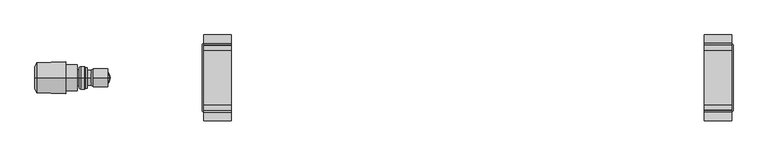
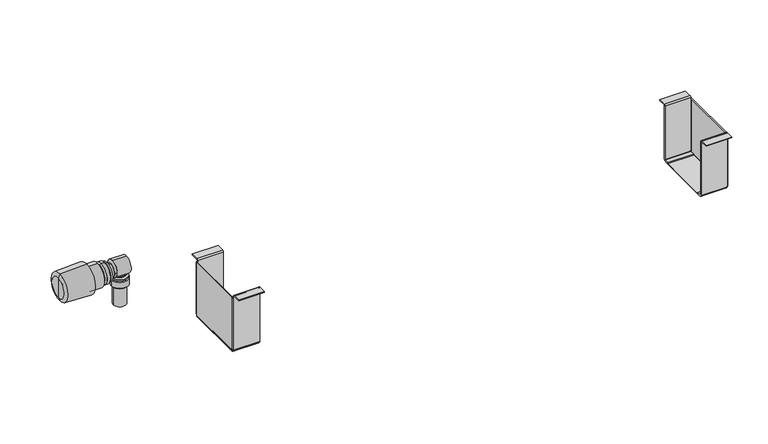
"""IFC4 building model written with IfcOpenShell, lengths in millimetres: proxy geometry, TECHNO_Конвектор напольный_Vita KPZ 135 : KPZ 135-130."""

from ifc_helpers import new_model, si_unit, point, frame, origin, place, context, project, spatial, polyline, circle_curve, ellipse_curve, trimmed, source, transform, mapped, element, save
from ifc_brep_helpers import plane_surface, cylinder_surface, revolved_surface, spline_surface, advanced_brep


def mechanical_equipment_428bca93(model_context):
    return source(origin(), model_context, "Body", "AdvancedBrep", [
        advanced_brep(
        [(409.7, -116.8, 1.5), (409.7, -114.5, 3.8), (409.7, -114.5, 4.9), (409.7, -116.0, 4.9), (409.7, -116.0, 3.8), (409.7, -116.8, 3.0), (409.7, -124.5, 3.0), (409.7, -124.5, 1.5), (409.7, -117.6, 1.5), (409.7, -114.5, 97.7), (409.7, -113.7, 98.5), (409.7, -101.0, 98.5), (409.7, -101.0, 100.0), (409.7, -113.7, 100.0), (409.7, -116.0, 97.7), (409.7, -116.0, 95.5), (409.7, -114.5, 95.5), (409.7, -220.5, 3.8), (409.7, -218.2, 1.5), (409.7, -217.4, 1.5), (409.7, -210.5, 1.5), (409.7, -210.5, 3.0), (409.7, -218.2, 3.0), (409.7, -219.0, 3.8), (409.7, -219.0, 4.9), (409.7, -220.5, 4.9), (409.7, -219.0, 97.7), (409.7, -221.3, 100.0), (409.7, -234.0, 100.0), (409.7, -234.0, 98.5), (409.7, -221.3, 98.5), (409.7, -220.5, 97.7), (409.7, -220.5, 95.5), (409.7, -219.0, 95.5), (367.0, -220.5, 97.7), (367.0, -221.3, 98.5), (367.0, -234.0, 98.5), (367.0, -234.0, 100.0), (367.0, -221.3, 100.0), (367.0, -219.0, 97.7), (367.0, -219.0, 3.8), (367.0, -218.2, 3.0), (367.0, -210.5, 3.0), (367.0, -210.5, 1.5), (367.0, -124.5, 1.5), (367.0, -124.5, 3.0), (367.0, -116.8, 3.0), (367.0, -116.0, 3.8), (367.0, -116.0, 97.7), (367.0, -113.7, 100.0), (367.0, -101.0, 100.0), (367.0, -101.0, 98.5), (367.0, -113.7, 98.5), (367.0, -114.5, 97.7), (367.0, -114.5, 3.8), (367.0, -116.8, 1.5), (367.0, -117.6, 1.5), (367.0, -117.6, 0.0), (367.0, -217.4, 0.0), (367.0, -217.4, 1.5), (367.0, -218.2, 1.5), (367.0, -220.5, 3.8), (410.5, -116.8, 95.5), (410.5, -218.2, 95.5), (412.0, -218.2, 95.5), (412.0, -116.8, 95.5), (412.0, -116.8, 4.9), (412.0, -117.6, 4.9), (410.5, -117.6, 4.9), (410.5, -116.8, 4.9), (410.5, -218.2, 4.9), (410.5, -217.4, 4.9), (412.0, -217.4, 4.9), (412.0, -218.2, 4.9), (410.5, -117.6, 2.3), (410.5, -217.4, 2.3), (412.0, -217.4, 2.3), (412.0, -117.6, 2.3), (409.7, -117.6, 0.0), (409.7, -217.4, 0.0)],
        [
            (0, 1, circle_curve(frame((409.7, -116.8, 3.8), z_axis=(1.0, 0.0, 0.0), x_axis=(0.0, -1.0, 0.0)), 2.3)),
            (1, 2),
            (2, 3),
            (3, 4),
            (4, 5, circle_curve(frame((409.7, -116.8, 3.8), z_axis=(-1.0, 0.0, 0.0), x_axis=(0.0, -1.0, 0.0)), 0.8)),
            (5, 6),
            (6, 7),
            (7, 8),
            (8, 0),
            (9, 10, circle_curve(frame((409.7, -113.7, 97.7), z_axis=(-1.0, 0.0, 0.0), x_axis=(0.0, -1.0, 0.0)), 0.8)),
            (10, 11),
            (11, 12),
            (12, 13),
            (13, 14, circle_curve(frame((409.7, -113.7, 97.7), z_axis=(1.0, 0.0, 0.0), x_axis=(0.0, -1.0, 0.0)), 2.3)),
            (14, 15),
            (15, 16),
            (16, 9),
            (17, 18, circle_curve(frame((409.7, -218.2, 3.8), z_axis=(1.0, 0.0, 0.0), x_axis=(0.0, -1.0, 0.0)), 2.3)),
            (18, 19),
            (19, 20),
            (20, 21),
            (21, 22),
            (22, 23, circle_curve(frame((409.7, -218.2, 3.8), z_axis=(-1.0, 0.0, 0.0), x_axis=(0.0, -1.0, 0.0)), 0.8)),
            (23, 24),
            (24, 25),
            (25, 17),
            (26, 27, circle_curve(frame((409.7, -221.3, 97.7), z_axis=(1.0, 0.0, 0.0), x_axis=(0.0, -1.0, 0.0)), 2.3)),
            (27, 28),
            (28, 29),
            (29, 30),
            (30, 31, circle_curve(frame((409.7, -221.3, 97.7), z_axis=(-1.0, 0.0, 0.0), x_axis=(0.0, -1.0, 0.0)), 0.8)),
            (31, 32),
            (32, 33),
            (33, 26),
            (34, 35, circle_curve(frame((367.0, -221.3, 97.7), z_axis=(1.0, 0.0, 0.0), x_axis=(0.0, -1.0, 0.0)), 0.8)),
            (35, 36),
            (36, 37),
            (37, 38),
            (38, 39, circle_curve(frame((367.0, -221.3, 97.7), z_axis=(-1.0, 0.0, 0.0), x_axis=(0.0, -1.0, 0.0)), 2.3)),
            (39, 40),
            (40, 41, circle_curve(frame((367.0, -218.2, 3.8), z_axis=(1.0, 0.0, 0.0), x_axis=(0.0, -1.0, 0.0)), 0.8)),
            (41, 42),
            (42, 43),
            (43, 44),
            (44, 45),
            (45, 46),
            (46, 47, circle_curve(frame((367.0, -116.8, 3.8), z_axis=(1.0, 0.0, 0.0), x_axis=(0.0, -1.0, 0.0)), 0.8)),
            (47, 48),
            (48, 49, circle_curve(frame((367.0, -113.7, 97.7), z_axis=(-1.0, 0.0, 0.0), x_axis=(0.0, -1.0, 0.0)), 2.3)),
            (49, 50),
            (50, 51),
            (51, 52),
            (52, 53, circle_curve(frame((367.0, -113.7, 97.7), z_axis=(1.0, 0.0, 0.0), x_axis=(0.0, -1.0, 0.0)), 0.8)),
            (53, 54),
            (54, 55, circle_curve(frame((367.0, -116.8, 3.8), z_axis=(-1.0, 0.0, 0.0), x_axis=(0.0, -1.0, 0.0)), 2.3)),
            (55, 56),
            (56, 57),
            (57, 58),
            (58, 59),
            (59, 60),
            (60, 61, circle_curve(frame((367.0, -218.2, 3.8), z_axis=(-1.0, 0.0, 0.0), x_axis=(0.0, -1.0, 0.0)), 2.3)),
            (61, 34),
            (30, 35),
            (34, 31),
            (29, 36),
            (28, 37),
            (27, 38),
            (26, 39),
            (33, 24),
            (23, 40),
            (22, 41),
            (5, 46),
            (45, 6),
            (4, 47),
            (3, 15),
            (14, 48),
            (13, 49),
            (12, 50),
            (11, 51),
            (10, 52),
            (9, 53),
            (16, 2),
            (1, 54),
            (0, 55),
            (8, 56),
            (17, 61),
            (60, 18),
            (25, 32),
            (21, 42),
            (20, 43),
            (59, 19),
            (44, 7),
            (15, 62, circle_curve(frame((409.7, -116.8, 95.5), z_axis=(0.0, 0.0, -1.0), x_axis=(-1.0, 0.0, 0.0)), 0.8)),
            (62, 63),
            (63, 33, circle_curve(frame((409.7, -218.2, 95.5), z_axis=(0.0, 0.0, -1.0), x_axis=(-1.0, 0.0, 0.0)), 0.8)),
            (32, 64, circle_curve(frame((409.7, -218.2, 95.5), z_axis=(0.0, 0.0, 1.0), x_axis=(-1.0, 0.0, 0.0)), 2.3)),
            (64, 65),
            (65, 16, circle_curve(frame((409.7, -116.8, 95.5), z_axis=(0.0, 0.0, 1.0), x_axis=(-1.0, 0.0, 0.0)), 2.3)),
            (2, 66, circle_curve(frame((409.7, -116.8, 4.9), z_axis=(0.0, 0.0, -1.0), x_axis=(-1.0, 0.0, 0.0)), 2.3)),
            (66, 67),
            (67, 68),
            (68, 69),
            (69, 3, circle_curve(frame((409.7, -116.8, 4.9), z_axis=(0.0, 0.0, 1.0), x_axis=(-1.0, 0.0, 0.0)), 0.8)),
            (24, 70, circle_curve(frame((409.7, -218.2, 4.9), z_axis=(0.0, 0.0, 1.0), x_axis=(-1.0, 0.0, 0.0)), 0.8)),
            (70, 71),
            (71, 72),
            (72, 73),
            (73, 25, circle_curve(frame((409.7, -218.2, 4.9), z_axis=(0.0, 0.0, -1.0), x_axis=(-1.0, 0.0, 0.0)), 2.3)),
            (69, 62),
            (68, 74),
            (74, 75),
            (75, 71),
            (70, 63),
            (64, 73),
            (72, 76),
            (76, 77),
            (77, 67),
            (66, 65),
            (8, 74, circle_curve(frame((409.7, -117.6, 2.3), z_axis=(0.0, -1.0, 0.0), x_axis=(-1.0, 0.0, 0.0)), 0.8)),
            (77, 78, circle_curve(frame((409.7, -117.6, 2.3), z_axis=(0.0, 1.0, 0.0), x_axis=(-1.0, 0.0, 0.0)), 2.3)),
            (78, 57),
            (58, 79),
            (79, 76, circle_curve(frame((409.7, -217.4, 2.3), z_axis=(0.0, -1.0, 0.0), x_axis=(-1.0, 0.0, 0.0)), 2.3)),
            (75, 19, circle_curve(frame((409.7, -217.4, 2.3), z_axis=(0.0, 1.0, 0.0), x_axis=(-1.0, 0.0, 0.0)), 0.8)),
            (20, 7),
            (79, 78),
        ],
        [
            plane_surface(frame((409.7, -222.1, 97.7), z_axis=(1.0, 0.0, 0.0), x_axis=(0.0, 0.0, 1.0))),
            plane_surface(frame((367.0, -222.1, 97.7), z_axis=(-1.0, 0.0, 0.0), x_axis=(0.0, 0.0, -1.0))),
            revolved_surface(polyline([(409.7, -222.10000000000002, 97.7), (367.0, -222.10000000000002, 97.7)]), (409.7, -221.3, 97.7), (1.0, 0.0, 0.0)),
            plane_surface(frame((367.0, -221.3, 98.5), z_axis=(0.0, 0.0, -1.0), x_axis=(1.0, 0.0, 0.0))),
            plane_surface(frame((367.0, -234.0, 98.5), z_axis=(0.0, -1.0, 0.0), x_axis=(1.0, 0.0, 0.0))),
            plane_surface(frame((367.0, -234.0, 100.0), z_axis=(0.0, 0.0, 1.0), x_axis=(1.0, 0.0, 0.0))),
            cylinder_surface(frame((409.7, -221.3, 97.7), z_axis=(-1.0, 0.0, 0.0), x_axis=(0.0, -1.0, 0.0)), 2.3),
            plane_surface(frame((367.0, -219.0, 97.7), z_axis=(0.0, 1.0, 0.0), x_axis=(1.0, 0.0, 0.0))),
            revolved_surface(polyline([(409.7, -219.0, 3.8), (367.0, -219.0, 3.8)]), (409.7, -218.2, 3.8), (1.0, 0.0, 0.0)),
            plane_surface(frame((367.0, -124.5, 3.0), z_axis=(0.0, 0.0, 1.0), x_axis=(1.0, 0.0, 0.0))),
            revolved_surface(polyline([(409.7, -117.6, 3.8), (367.0, -117.6, 3.8)]), (412.0, -116.8, 3.8), (1.0, 0.0, 0.0)),
            plane_surface(frame((367.0, -116.0, 3.8), z_axis=(0.0, -1.0, 0.0), x_axis=(1.0, 0.0, 0.0))),
            cylinder_surface(frame((412.0, -113.7, 97.7), z_axis=(-1.0, 0.0, 0.0), x_axis=(0.0, -1.0, 0.0)), 2.3),
            plane_surface(frame((367.0, -113.7, 100.0), z_axis=(0.0, 0.0, 1.0), x_axis=(1.0, 0.0, 0.0))),
            plane_surface(frame((367.0, -101.0, 100.0), z_axis=(0.0, 1.0, 0.0), x_axis=(1.0, 0.0, 0.0))),
            plane_surface(frame((367.0, -101.0, 98.5), z_axis=(0.0, 0.0, -1.0), x_axis=(1.0, 0.0, 0.0))),
            revolved_surface(polyline([(409.7, -114.5, 97.7), (367.0, -114.5, 97.7)]), (412.0, -113.7, 97.7), (1.0, 0.0, 0.0)),
            plane_surface(frame((367.0, -114.5, 97.7), z_axis=(0.0, 1.0, 0.0), x_axis=(1.0, 0.0, 0.0))),
            cylinder_surface(frame((412.0, -116.8, 3.8), z_axis=(-1.0, 0.0, 0.0), x_axis=(0.0, -1.0, 0.0)), 2.3),
            plane_surface(frame((367.0, -116.8, 1.5), z_axis=(0.0, 0.0, -1.0), x_axis=(1.0, 0.0, 0.0))),
            cylinder_surface(frame((409.7, -218.2, 3.8), z_axis=(-1.0, 0.0, 0.0), x_axis=(0.0, -1.0, 0.0)), 2.3),
            plane_surface(frame((367.0, -220.5, 3.8), z_axis=(0.0, -1.0, 0.0), x_axis=(1.0, 0.0, 0.0))),
            plane_surface(frame((367.0, -218.2, 3.0), z_axis=(0.0, 0.0, 1.0), x_axis=(1.0, 0.0, 0.0))),
            plane_surface(frame((367.0, -210.5, 3.0), z_axis=(0.0, 1.0, 0.0), x_axis=(1.0, 0.0, 0.0))),
            plane_surface(frame((367.0, -210.5, 1.5), z_axis=(0.0, 0.0, -1.0), x_axis=(1.0, 0.0, 0.0))),
            plane_surface(frame((367.0, -124.5, 1.5), z_axis=(0.0, -1.0, 0.0), x_axis=(1.0, 0.0, 0.0))),
            plane_surface(frame((409.7, -116.0, 95.5), z_axis=(0.0, 0.0, 1.0), x_axis=(0.0, -1.0, 0.0))),
            plane_surface(frame((409.7, -116.0, 4.9), z_axis=(0.0, 0.0, -1.0), x_axis=(0.0, 1.0, 0.0))),
            revolved_surface(polyline([(408.9, -116.8, 4.9), (408.9, -116.8, 95.5)]), (409.7, -116.8, 4.9), (0.0, 0.0, -1.0)),
            plane_surface(frame((410.5, -116.8, 95.5), z_axis=(-1.0, 0.0, 0.0), x_axis=(0.0, 0.0, -1.0))),
            plane_surface(frame((412.0, -117.6, 95.5), z_axis=(1.0, 0.0, 0.0), x_axis=(0.0, 0.0, -1.0))),
            cylinder_surface(frame((409.7, -116.8, 4.9), z_axis=(0.0, 0.0, 1.0), x_axis=(-1.0, 0.0, 0.0)), 2.3),
            cylinder_surface(frame((409.7, -218.2, 0.0), z_axis=(0.0, 0.0, 1.0), x_axis=(-1.0, 0.0, 0.0)), 2.3),
            revolved_surface(polyline([(408.9, -218.2, 4.9), (408.9, -218.2, 95.5)]), (409.7, -218.2, 0.0), (0.0, 0.0, -1.0)),
            plane_surface(frame((367.0, -117.6, 1.5), z_axis=(0.0, 1.0, 0.0), x_axis=(0.0, 0.0, 1.0))),
            plane_surface(frame((367.0, -217.4, 1.5), z_axis=(0.0, -1.0, 0.0), x_axis=(0.0, 0.0, -1.0))),
            plane_surface(frame((367.0, -117.6, 1.5), z_axis=(0.0, 0.0, 1.0), x_axis=(0.0, -1.0, 0.0))),
            revolved_surface(polyline([(408.9, -217.4, 2.3), (408.9, -117.6, 2.3)]), (409.7, -217.4, 2.3), (0.0, -1.0, 0.0)),
            cylinder_surface(frame((409.7, -217.4, 2.3), z_axis=(0.0, 1.0, 0.0), x_axis=(-1.0, 0.0, 0.0)), 2.3),
            plane_surface(frame((409.7, -117.6, 0.0), z_axis=(0.0, 0.0, -1.0), x_axis=(0.0, -1.0, 0.0))),
        ],
        [
            (0, [[1, 2, 3, 4, 5, 6, 7, 8, 9]]),
            (0, [[10, 11, 12, 13, 14, 15, 16, 17]]),
            (0, [[18, 19, 20, 21, 22, 23, 24, 25, 26]]),
            (0, [[27, 28, 29, 30, 31, 32, 33, 34]]),
            (1, [[35, 36, 37, 38, 39, 40, 41, 42, 43, 44, 45, 46, 47, 48, 49, 50, 51, 52, 53, 54, 55, 56, 57, 58, 59, 60, 61, 62]]),
            (2, [[-31, 63, -35, 64]]),
            (3, [[-30, 65, -36, -63]]),
            (4, [[-29, 66, -37, -65]]),
            (5, [[-28, 67, -38, -66]]),
            (6, [[-27, 68, -39, -67]]),
            (7, [[-40, -68, -34, 69, -24, 70]]),
            (8, [[-23, 71, -41, -70]]),
            (9, [[-6, 72, -46, 73]]),
            (10, [[-5, 74, -47, -72]]),
            (11, [[-48, -74, -4, 75, -15, 76]]),
            (12, [[-14, 77, -49, -76]]),
            (13, [[-13, 78, -50, -77]]),
            (14, [[-12, 79, -51, -78]]),
            (15, [[-11, 80, -52, -79]]),
            (16, [[-10, 81, -53, -80]]),
            (17, [[-54, -81, -17, 82, -2, 83]]),
            (18, [[-1, 84, -55, -83]]),
            (19, [[-84, -9, 85, -56]]),
            (20, [[-18, 86, -61, 87]]),
            (21, [[-62, -86, -26, 88, -32, -64]]),
            (22, [[-22, 89, -42, -71]]),
            (23, [[-21, 90, -43, -89]]),
            (24, [[-87, -60, 91, -19]]),
            (25, [[-7, -73, -45, 92]]),
            (26, [[93, 94, 95, -33, 96, 97, 98, -16]]),
            (27, [[99, 100, 101, 102, 103, -3]]),
            (27, [[104, 105, 106, 107, 108, -25]]),
            (28, [[-93, -75, -103, 109]]),
            (29, [[-94, -109, -102, 110, 111, 112, -105, 113]]),
            (30, [[-97, 114, -107, 115, 116, 117, -100, 118]]),
            (31, [[-98, -118, -99, -82]]),
            (32, [[-96, -88, -108, -114]]),
            (33, [[-95, -113, -104, -69]]),
            (34, [[-57, -85, 119, -110, -101, -117, 120, 121]]),
            (35, [[122, 123, -115, -106, -112, 124, -91, -59]]),
            (36, [[125, -92, -44, -90]]),
            (37, [[-119, -8, -125, -20, -124, -111]]),
            (38, [[-120, -116, -123, 126]]),
            (39, [[-121, -126, -122, -58]]),
        ],
    ),
        advanced_brep(
        [(-409.7, -218.2, 1.5), (-409.7, -220.5, 3.8), (-409.7, -220.5, 4.9), (-409.7, -219.0, 4.9), (-409.7, -219.0, 3.8), (-409.7, -218.2, 3.0), (-409.7, -210.5, 3.0), (-409.7, -210.5, 1.5), (-409.7, -217.4, 1.5), (-409.7, -220.5, 97.7), (-409.7, -221.3, 98.5), (-409.7, -234.0, 98.5), (-409.7, -234.0, 100.0), (-409.7, -221.3, 100.0), (-409.7, -219.0, 97.7), (-409.7, -219.0, 95.5), (-409.7, -220.5, 95.5), (-409.7, -114.5, 3.8), (-409.7, -116.8, 1.5), (-409.7, -117.6, 1.5), (-409.7, -124.5, 1.5), (-409.7, -124.5, 3.0), (-409.7, -116.8, 3.0), (-409.7, -116.0, 3.8), (-409.7, -116.0, 4.9), (-409.7, -114.5, 4.9), (-409.7, -116.0, 97.7), (-409.7, -113.7, 100.0), (-409.7, -101.0, 100.0), (-409.7, -101.0, 98.5), (-409.7, -113.7, 98.5), (-409.7, -114.5, 97.7), (-409.7, -114.5, 95.5), (-409.7, -116.0, 95.5), (-367.0, -114.5, 97.7), (-367.0, -113.7, 98.5), (-367.0, -101.0, 98.5), (-367.0, -101.0, 100.0), (-367.0, -113.7, 100.0), (-367.0, -116.0, 97.7), (-367.0, -116.0, 3.8), (-367.0, -116.8, 3.0), (-367.0, -124.5, 3.0), (-367.0, -124.5, 1.5), (-367.0, -210.5, 1.5), (-367.0, -210.5, 3.0), (-367.0, -218.2, 3.0), (-367.0, -219.0, 3.8), (-367.0, -219.0, 97.7), (-367.0, -221.3, 100.0), (-367.0, -234.0, 100.0), (-367.0, -234.0, 98.5), (-367.0, -221.3, 98.5), (-367.0, -220.5, 97.7), (-367.0, -220.5, 3.8), (-367.0, -218.2, 1.5), (-367.0, -217.4, 1.5), (-367.0, -217.4, 0.0), (-367.0, -117.6, 0.0), (-367.0, -117.6, 1.5), (-367.0, -116.8, 1.5), (-367.0, -114.5, 3.8), (-410.5, -218.2, 95.5), (-410.5, -116.8, 95.5), (-412.0, -116.8, 95.5), (-412.0, -218.2, 95.5), (-412.0, -218.2, 4.9), (-412.0, -217.4, 4.9), (-410.5, -217.4, 4.9), (-410.5, -218.2, 4.9), (-410.5, -116.8, 4.9), (-410.5, -117.6, 4.9), (-412.0, -117.6, 4.9), (-412.0, -116.8, 4.9), (-410.5, -217.4, 2.3), (-410.5, -117.6, 2.3), (-412.0, -117.6, 2.3), (-412.0, -217.4, 2.3), (-409.7, -217.4, 0.0), (-409.7, -117.6, 0.0)],
        [
            (0, 1, circle_curve(frame((-409.7, -218.2, 3.8), z_axis=(-1.0, 0.0, 0.0), x_axis=(0.0, 1.0, 0.0)), 2.3)),
            (1, 2),
            (2, 3),
            (3, 4),
            (4, 5, circle_curve(frame((-409.7, -218.2, 3.8), z_axis=(1.0, 0.0, 0.0), x_axis=(0.0, 1.0, 0.0)), 0.8)),
            (5, 6),
            (6, 7),
            (7, 8),
            (8, 0),
            (9, 10, circle_curve(frame((-409.7, -221.3, 97.7), z_axis=(1.0, 0.0, 0.0), x_axis=(0.0, 1.0, 0.0)), 0.8)),
            (10, 11),
            (11, 12),
            (12, 13),
            (13, 14, circle_curve(frame((-409.7, -221.3, 97.7), z_axis=(-1.0, 0.0, 0.0), x_axis=(0.0, 1.0, 0.0)), 2.3)),
            (14, 15),
            (15, 16),
            (16, 9),
            (17, 18, circle_curve(frame((-409.7, -116.8, 3.8), z_axis=(-1.0, 0.0, 0.0), x_axis=(0.0, 1.0, 0.0)), 2.3)),
            (18, 19),
            (19, 20),
            (20, 21),
            (21, 22),
            (22, 23, circle_curve(frame((-409.7, -116.8, 3.8), z_axis=(1.0, 0.0, 0.0), x_axis=(0.0, 1.0, 0.0)), 0.8)),
            (23, 24),
            (24, 25),
            (25, 17),
            (26, 27, circle_curve(frame((-409.7, -113.7, 97.7), z_axis=(-1.0, 0.0, 0.0), x_axis=(0.0, 1.0, 0.0)), 2.3)),
            (27, 28),
            (28, 29),
            (29, 30),
            (30, 31, circle_curve(frame((-409.7, -113.7, 97.7), z_axis=(1.0, 0.0, 0.0), x_axis=(0.0, 1.0, 0.0)), 0.8)),
            (31, 32),
            (32, 33),
            (33, 26),
            (34, 35, circle_curve(frame((-367.0, -113.7, 97.7), z_axis=(-1.0, 0.0, 0.0), x_axis=(0.0, 1.0, 0.0)), 0.8)),
            (35, 36),
            (36, 37),
            (37, 38),
            (38, 39, circle_curve(frame((-367.0, -113.7, 97.7), z_axis=(1.0, 0.0, 0.0), x_axis=(0.0, 1.0, 0.0)), 2.3)),
            (39, 40),
            (40, 41, circle_curve(frame((-367.0, -116.8, 3.8), z_axis=(-1.0, 0.0, 0.0), x_axis=(0.0, 1.0, 0.0)), 0.8)),
            (41, 42),
            (42, 43),
            (43, 44),
            (44, 45),
            (45, 46),
            (46, 47, circle_curve(frame((-367.0, -218.2, 3.8), z_axis=(-1.0, 0.0, 0.0), x_axis=(0.0, 1.0, 0.0)), 0.8)),
            (47, 48),
            (48, 49, circle_curve(frame((-367.0, -221.3, 97.7), z_axis=(1.0, 0.0, 0.0), x_axis=(0.0, 1.0, 0.0)), 2.3)),
            (49, 50),
            (50, 51),
            (51, 52),
            (52, 53, circle_curve(frame((-367.0, -221.3, 97.7), z_axis=(-1.0, 0.0, 0.0), x_axis=(0.0, 1.0, 0.0)), 0.8)),
            (53, 54),
            (54, 55, circle_curve(frame((-367.0, -218.2, 3.8), z_axis=(1.0, 0.0, 0.0), x_axis=(0.0, 1.0, 0.0)), 2.3)),
            (55, 56),
            (56, 57),
            (57, 58),
            (58, 59),
            (59, 60),
            (60, 61, circle_curve(frame((-367.0, -116.8, 3.8), z_axis=(1.0, 0.0, 0.0), x_axis=(0.0, 1.0, 0.0)), 2.3)),
            (61, 34),
            (30, 35),
            (34, 31),
            (29, 36),
            (28, 37),
            (27, 38),
            (26, 39),
            (33, 24),
            (23, 40),
            (22, 41),
            (5, 46),
            (45, 6),
            (4, 47),
            (3, 15),
            (14, 48),
            (13, 49),
            (12, 50),
            (11, 51),
            (10, 52),
            (9, 53),
            (16, 2),
            (1, 54),
            (0, 55),
            (8, 56),
            (17, 61),
            (60, 18),
            (25, 32),
            (21, 42),
            (20, 43),
            (59, 19),
            (44, 7),
            (15, 62, circle_curve(frame((-409.7, -218.2, 95.5), z_axis=(0.0, 0.0, -1.0), x_axis=(1.0, 0.0, 0.0)), 0.8)),
            (62, 63),
            (63, 33, circle_curve(frame((-409.7, -116.8, 95.5), z_axis=(0.0, 0.0, -1.0), x_axis=(1.0, 0.0, 0.0)), 0.8)),
            (32, 64, circle_curve(frame((-409.7, -116.8, 95.5), z_axis=(0.0, 0.0, 1.0), x_axis=(1.0, 0.0, 0.0)), 2.3)),
            (64, 65),
            (65, 16, circle_curve(frame((-409.7, -218.2, 95.5), z_axis=(0.0, 0.0, 1.0), x_axis=(1.0, 0.0, 0.0)), 2.3)),
            (2, 66, circle_curve(frame((-409.7, -218.2, 4.9), z_axis=(0.0, 0.0, -1.0), x_axis=(1.0, 0.0, 0.0)), 2.3)),
            (66, 67),
            (67, 68),
            (68, 69),
            (69, 3, circle_curve(frame((-409.7, -218.2, 4.9), z_axis=(0.0, 0.0, 1.0), x_axis=(1.0, 0.0, 0.0)), 0.8)),
            (24, 70, circle_curve(frame((-409.7, -116.8, 4.9), z_axis=(0.0, 0.0, 1.0), x_axis=(1.0, 0.0, 0.0)), 0.8)),
            (70, 71),
            (71, 72),
            (72, 73),
            (73, 25, circle_curve(frame((-409.7, -116.8, 4.9), z_axis=(0.0, 0.0, -1.0), x_axis=(1.0, 0.0, 0.0)), 2.3)),
            (69, 62),
            (68, 74),
            (74, 75),
            (75, 71),
            (70, 63),
            (64, 73),
            (72, 76),
            (76, 77),
            (77, 67),
            (66, 65),
            (8, 74, circle_curve(frame((-409.7, -217.4, 2.3), z_axis=(0.0, 1.0, 0.0), x_axis=(1.0, 0.0, 0.0)), 0.8)),
            (77, 78, circle_curve(frame((-409.7, -217.4, 2.3), z_axis=(0.0, -1.0, 0.0), x_axis=(1.0, 0.0, 0.0)), 2.3)),
            (78, 57),
            (58, 79),
            (79, 76, circle_curve(frame((-409.7, -117.6, 2.3), z_axis=(0.0, 1.0, 0.0), x_axis=(1.0, 0.0, 0.0)), 2.3)),
            (75, 19, circle_curve(frame((-409.7, -117.6, 2.3), z_axis=(0.0, -1.0, 0.0), x_axis=(1.0, 0.0, 0.0)), 0.8)),
            (20, 7),
            (79, 78),
        ],
        [
            plane_surface(frame((-409.7, -112.9, 97.7), z_axis=(-1.0, 0.0, 0.0), x_axis=(0.0, 0.0, 1.0))),
            plane_surface(frame((-367.0, -112.9, 97.7), z_axis=(1.0, 0.0, 0.0), x_axis=(0.0, 0.0, -1.0))),
            revolved_surface(polyline([(-409.7, -112.9, 97.7), (-367.0, -112.9, 97.7)]), (-409.7, -113.7, 97.7), (-1.0, 0.0, 0.0)),
            plane_surface(frame((-367.0, -113.7, 98.5), z_axis=(0.0, 0.0, -1.0), x_axis=(-1.0, 0.0, 0.0))),
            plane_surface(frame((-367.0, -101.0, 98.5), z_axis=(0.0, 1.0, 0.0), x_axis=(-1.0, 0.0, 0.0))),
            plane_surface(frame((-367.0, -101.0, 100.0), z_axis=(0.0, 0.0, 1.0), x_axis=(-1.0, 0.0, 0.0))),
            cylinder_surface(frame((-409.7, -113.7, 97.7), z_axis=(1.0, 0.0, 0.0), x_axis=(0.0, 1.0, 0.0)), 2.3),
            plane_surface(frame((-367.0, -116.0, 97.7), z_axis=(0.0, -1.0, 0.0), x_axis=(-1.0, 0.0, 0.0))),
            revolved_surface(polyline([(-409.7, -116.0, 3.8), (-367.0, -116.0, 3.8)]), (-409.7, -116.8, 3.8), (-1.0, 0.0, 0.0)),
            plane_surface(frame((-367.0, -210.5, 3.0), z_axis=(0.0, 0.0, 1.0), x_axis=(-1.0, 0.0, 0.0))),
            revolved_surface(polyline([(-409.7, -217.39999999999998, 3.8), (-367.0, -217.39999999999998, 3.8)]), (-412.0, -218.2, 3.8), (-1.0, 0.0, 0.0)),
            plane_surface(frame((-367.0, -219.0, 3.8), z_axis=(0.0, 1.0, 0.0), x_axis=(-1.0, 0.0, 0.0))),
            cylinder_surface(frame((-412.0, -221.3, 97.7), z_axis=(1.0, 0.0, 0.0), x_axis=(0.0, 1.0, 0.0)), 2.3),
            plane_surface(frame((-367.0, -221.3, 100.0), z_axis=(0.0, 0.0, 1.0), x_axis=(-1.0, 0.0, 0.0))),
            plane_surface(frame((-367.0, -234.0, 100.0), z_axis=(0.0, -1.0, 0.0), x_axis=(-1.0, 0.0, 0.0))),
            plane_surface(frame((-367.0, -234.0, 98.5), z_axis=(0.0, 0.0, -1.0), x_axis=(-1.0, 0.0, 0.0))),
            revolved_surface(polyline([(-409.7, -220.5, 97.7), (-367.0, -220.5, 97.7)]), (-412.0, -221.3, 97.7), (-1.0, 0.0, 0.0)),
            plane_surface(frame((-367.0, -220.5, 97.7), z_axis=(0.0, -1.0, 0.0), x_axis=(-1.0, 0.0, 0.0))),
            cylinder_surface(frame((-412.0, -218.2, 3.8), z_axis=(1.0, 0.0, 0.0), x_axis=(0.0, 1.0, 0.0)), 2.3),
            plane_surface(frame((-367.0, -218.2, 1.5), z_axis=(0.0, 0.0, -1.0), x_axis=(-1.0, 0.0, 0.0))),
            cylinder_surface(frame((-409.7, -116.8, 3.8), z_axis=(1.0, 0.0, 0.0), x_axis=(0.0, 1.0, 0.0)), 2.3),
            plane_surface(frame((-367.0, -114.5, 3.8), z_axis=(0.0, 1.0, 0.0), x_axis=(-1.0, 0.0, 0.0))),
            plane_surface(frame((-367.0, -116.8, 3.0), z_axis=(0.0, 0.0, 1.0), x_axis=(-1.0, 0.0, 0.0))),
            plane_surface(frame((-367.0, -124.5, 3.0), z_axis=(0.0, -1.0, 0.0), x_axis=(-1.0, 0.0, 0.0))),
            plane_surface(frame((-367.0, -124.5, 1.5), z_axis=(0.0, 0.0, -1.0), x_axis=(-1.0, 0.0, 0.0))),
            plane_surface(frame((-367.0, -210.5, 1.5), z_axis=(0.0, 1.0, 0.0), x_axis=(-1.0, 0.0, 0.0))),
            plane_surface(frame((-409.7, -219.0, 95.5), z_axis=(0.0, 0.0, 1.0), x_axis=(0.0, 1.0, 0.0))),
            plane_surface(frame((-409.7, -219.0, 4.9), z_axis=(0.0, 0.0, -1.0), x_axis=(0.0, -1.0, 0.0))),
            revolved_surface(polyline([(-408.9, -218.2, 4.9), (-408.9, -218.2, 95.5)]), (-409.7, -218.2, 4.9), (0.0, 0.0, -1.0)),
            plane_surface(frame((-410.5, -218.2, 95.5), z_axis=(1.0, 0.0, 0.0), x_axis=(0.0, 0.0, -1.0))),
            plane_surface(frame((-412.0, -217.4, 95.5), z_axis=(-1.0, 0.0, 0.0), x_axis=(0.0, 0.0, -1.0))),
            cylinder_surface(frame((-409.7, -218.2, 4.9), z_axis=(0.0, 0.0, 1.0), x_axis=(1.0, 0.0, 0.0)), 2.3),
            cylinder_surface(frame((-409.7, -116.8, 0.0), z_axis=(0.0, 0.0, 1.0), x_axis=(1.0, 0.0, 0.0)), 2.3),
            revolved_surface(polyline([(-408.9, -116.8, 4.9), (-408.9, -116.8, 95.5)]), (-409.7, -116.8, 0.0), (0.0, 0.0, -1.0)),
            plane_surface(frame((-367.0, -217.4, 1.5), z_axis=(0.0, -1.0, 0.0), x_axis=(0.0, 0.0, 1.0))),
            plane_surface(frame((-367.0, -117.6, 1.5), z_axis=(0.0, 1.0, 0.0), x_axis=(0.0, 0.0, -1.0))),
            plane_surface(frame((-367.0, -217.4, 1.5), z_axis=(0.0, 0.0, 1.0), x_axis=(0.0, 1.0, 0.0))),
            revolved_surface(polyline([(-408.9, -117.6, 2.3), (-408.9, -217.4, 2.3)]), (-409.7, -117.6, 2.3), (0.0, 1.0, 0.0)),
            cylinder_surface(frame((-409.7, -117.6, 2.3), z_axis=(0.0, -1.0, 0.0), x_axis=(1.0, 0.0, 0.0)), 2.3),
            plane_surface(frame((-409.7, -217.4, 0.0), z_axis=(0.0, 0.0, -1.0), x_axis=(0.0, 1.0, 0.0))),
        ],
        [
            (0, [[1, 2, 3, 4, 5, 6, 7, 8, 9]]),
            (0, [[10, 11, 12, 13, 14, 15, 16, 17]]),
            (0, [[18, 19, 20, 21, 22, 23, 24, 25, 26]]),
            (0, [[27, 28, 29, 30, 31, 32, 33, 34]]),
            (1, [[35, 36, 37, 38, 39, 40, 41, 42, 43, 44, 45, 46, 47, 48, 49, 50, 51, 52, 53, 54, 55, 56, 57, 58, 59, 60, 61, 62]]),
            (2, [[-31, 63, -35, 64]]),
            (3, [[-30, 65, -36, -63]]),
            (4, [[-29, 66, -37, -65]]),
            (5, [[-28, 67, -38, -66]]),
            (6, [[-27, 68, -39, -67]]),
            (7, [[-40, -68, -34, 69, -24, 70]]),
            (8, [[-23, 71, -41, -70]]),
            (9, [[-6, 72, -46, 73]]),
            (10, [[-5, 74, -47, -72]]),
            (11, [[-48, -74, -4, 75, -15, 76]]),
            (12, [[-14, 77, -49, -76]]),
            (13, [[-13, 78, -50, -77]]),
            (14, [[-12, 79, -51, -78]]),
            (15, [[-11, 80, -52, -79]]),
            (16, [[-10, 81, -53, -80]]),
            (17, [[-54, -81, -17, 82, -2, 83]]),
            (18, [[-1, 84, -55, -83]]),
            (19, [[-84, -9, 85, -56]]),
            (20, [[-18, 86, -61, 87]]),
            (21, [[-62, -86, -26, 88, -32, -64]]),
            (22, [[-22, 89, -42, -71]]),
            (23, [[-21, 90, -43, -89]]),
            (24, [[-87, -60, 91, -19]]),
            (25, [[-7, -73, -45, 92]]),
            (26, [[93, 94, 95, -33, 96, 97, 98, -16]]),
            (27, [[99, 100, 101, 102, 103, -3]]),
            (27, [[104, 105, 106, 107, 108, -25]]),
            (28, [[-93, -75, -103, 109]]),
            (29, [[-94, -109, -102, 110, 111, 112, -105, 113]]),
            (30, [[-97, 114, -107, 115, 116, 117, -100, 118]]),
            (31, [[-98, -118, -99, -82]]),
            (32, [[-96, -88, -108, -114]]),
            (33, [[-95, -113, -104, -69]]),
            (34, [[-57, -85, 119, -110, -101, -117, 120, 121]]),
            (35, [[122, 123, -115, -106, -112, 124, -91, -59]]),
            (36, [[125, -92, -44, -90]]),
            (37, [[-119, -8, -125, -20, -124, -111]]),
            (38, [[-120, -116, -123, 126]]),
            (39, [[-121, -126, -122, -58]]),
        ],
    ),
        advanced_brep(
        [(-558.0, -167.5, 161.5), (-558.0, -167.5, 189.5), (-558.0, -167.5, 175.5), (-580.9, -167.5, 161.5), (-580.9, -167.5, 189.5), (-580.9, -167.5, 175.5)],
        [
            (0, 1, circle_curve(frame((-558.0, -167.5, 175.5), z_axis=(1.0, 0.0, 0.0), x_axis=(0.0, 0.0, 1.0)), 14.0)),
            (1, 2),
            (2, 0),
            (1, 0, circle_curve(frame((-558.0, -167.5, 175.5), z_axis=(1.0, 0.0, 0.0), x_axis=(0.0, 0.0, 1.0)), 14.0)),
            (3, 4, circle_curve(frame((-580.9, -167.5, 175.5), z_axis=(1.0, 0.0, 0.0), x_axis=(0.0, 0.0, 1.0)), 14.0)),
            (4, 1),
            (0, 3),
            (4, 3, circle_curve(frame((-580.9, -167.5, 175.5), z_axis=(1.0, 0.0, 0.0), x_axis=(0.0, 0.0, 1.0)), 14.0)),
            (5, 4),
            (3, 5),
        ],
        [
            plane_surface(frame((-558.0, -167.5, 175.5), z_axis=(1.0, 0.0, 0.0), x_axis=(0.0, 0.0, 1.0))),
            cylinder_surface(frame((-580.9, -167.5, 175.5), z_axis=(-1.0, 0.0, 0.0), x_axis=(0.0, 0.0, 1.0)), 14.0),
            plane_surface(frame((-580.9, -167.5, 175.5), z_axis=(-1.0, 0.0, 0.0), x_axis=(0.0, 0.0, 1.0))),
        ],
        [
            (0, [[1, 2, 3]]),
            (0, [[4, -3, -2]]),
            (1, [[5, 6, -1, 7]]),
            (1, [[8, -7, -4, -6]]),
            (2, [[9, -5, 10]]),
            (2, [[-10, -8, -9]]),
        ],
    ),
        advanced_brep(
        [(-580.9, -181.5, 175.5), (-580.9, -153.5, 175.5), (-583.7867511, -179.0, 173.0), (-583.7867511, -156.0, 173.0)],
        [
            (0, 1, circle_curve(frame((-580.9, -167.5, 175.5), z_axis=(1.0, 0.0, 0.0), x_axis=(0.0, 1.0, 0.0)), 14.0)),
            (1, 0, circle_curve(frame((-580.9, -167.5, 175.5), z_axis=(1.0, 0.0, 0.0), x_axis=(0.0, 1.0, 0.0)), 14.0)),
            (2, 3, circle_curve(frame((-583.7867511, -167.5, 173.0), z_axis=(-1.0, 0.0, 0.0), x_axis=(0.0, 1.0, 0.0)), 11.5)),
            (3, 2, circle_curve(frame((-583.7867511, -167.5, 173.0), z_axis=(-1.0, 0.0, 0.0), x_axis=(0.0, 1.0, 0.0)), 11.5)),
            (3, 1),
            (0, 2),
        ],
        [
            plane_surface(frame((-580.9, -167.5, 175.5), z_axis=(1.0, 0.0, 0.0), x_axis=(0.0, 0.0, -1.0))),
            plane_surface(frame((-583.7867511, -167.5, 173.0), z_axis=(-1.0, 0.0, 0.0), x_axis=(0.0, 0.0, -1.0))),
            spline_surface(2, 1, [[(-583.7867511, -179.0, 173.0), (-580.9, -181.5, 175.5)], [(-583.7867511, -179.0, 161.5), (-580.9, -181.5, 161.5)], [(-583.7867511, -167.5, 161.5), (-580.9, -167.5, 161.5)], [(-583.7867511, -156.0, 161.5), (-580.9, -153.5, 161.5)], [(-583.7867511, -156.0, 173.0), (-580.9, -153.5, 175.5)]], [3, 2, 3], [2, 2], [0.0, 1.0, 2.0], [0.0, 1.0], weights=[[1.0, 1.0], [0.7071067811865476, 0.7071067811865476], [1.0, 1.0], [0.7071067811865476, 0.7071067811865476], [1.0, 1.0]]),
            spline_surface(2, 1, [[(-583.7867511, -156.0, 173.0), (-580.9, -153.5, 175.5)], [(-583.7867511, -156.0, 184.5), (-580.9, -153.5, 189.5)], [(-583.7867511, -167.5, 184.5), (-580.9, -167.5, 189.5)], [(-583.7867511, -179.0, 184.5), (-580.9, -181.5, 189.5)], [(-583.7867511, -179.0, 173.0), (-580.9, -181.5, 175.5)]], [3, 2, 3], [2, 2], [0.0, 1.0, 2.0], [0.0, 1.0], weights=[[1.0, 1.0], [0.7071067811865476, 0.7071067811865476], [1.0, 1.0], [0.7071067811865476, 0.7071067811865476], [1.0, 1.0]]),
        ],
        [
            (0, [[1, 2]]),
            (1, [[3, 4]]),
            (2, [[-4, 5, -1, 6]]),
            (3, [[-3, -6, -2, -5]]),
        ],
    ),
        advanced_brep(
        [(-579.5, -167.5, 144.3), (-558.5, -167.5, 144.3), (-558.5, -167.5, 110.9), (-579.5, -167.5, 110.9), (-582.0, -167.5, 144.3), (-556.0, -167.5, 144.3), (-583.25, -167.5, 145.55), (-554.75, -167.5, 145.55), (-583.25, -167.5, 155.85), (-554.75, -167.5, 155.85), (-582.0, -167.5, 157.1), (-556.0, -167.5, 157.1), (-582.0, -167.5, 159.5), (-556.0, -167.5, 159.5), (-579.0, -167.5, 161.3), (-559.0, -167.5, 161.3), (-579.0, -167.5, 162.5), (-559.0, -167.5, 162.5), (-578.0, -167.5, 162.5), (-560.0, -167.5, 162.5), (-578.0, -167.5, 166.5), (-560.0, -167.5, 166.5), (-569.0, -167.5, 166.5), (-569.0, -167.5, 110.9)],
        [
            (0, 1, circle_curve(frame((-569.0, -167.5, 144.3), z_axis=(0.0, 0.0, -1.0), x_axis=(1.0, 0.0, 0.0)), 10.5)),
            (1, 2),
            (2, 3, circle_curve(frame((-569.0, -167.5, 110.9), z_axis=(0.0, 0.0, 1.0), x_axis=(1.0, 0.0, 0.0)), 10.5)),
            (3, 0),
            (1, 0, circle_curve(frame((-569.0, -167.5, 144.3), z_axis=(0.0, 0.0, -1.0), x_axis=(1.0, 0.0, 0.0)), 10.5)),
            (3, 2, circle_curve(frame((-569.0, -167.5, 110.9), z_axis=(0.0, 0.0, 1.0), x_axis=(1.0, 0.0, 0.0)), 10.5)),
            (4, 5, circle_curve(frame((-569.0, -167.5, 144.3), z_axis=(0.0, 0.0, -1.0), x_axis=(1.0, 0.0, 0.0)), 13.0)),
            (5, 1),
            (0, 4),
            (5, 4, circle_curve(frame((-569.0, -167.5, 144.3), z_axis=(0.0, 0.0, -1.0), x_axis=(1.0, 0.0, 0.0)), 13.0)),
            (6, 7, circle_curve(frame((-569.0, -167.5, 145.55), z_axis=(0.0, 0.0, -1.0), x_axis=(1.0, 0.0, 0.0)), 14.25)),
            (7, 5),
            (4, 6),
            (7, 6, circle_curve(frame((-569.0, -167.5, 145.55), z_axis=(0.0, 0.0, -1.0), x_axis=(1.0, 0.0, 0.0)), 14.25)),
            (8, 9, circle_curve(frame((-569.0, -167.5, 155.85), z_axis=(0.0, 0.0, -1.0), x_axis=(1.0, 0.0, 0.0)), 14.25)),
            (9, 7),
            (6, 8),
            (9, 8, circle_curve(frame((-569.0, -167.5, 155.85), z_axis=(0.0, 0.0, -1.0), x_axis=(1.0, 0.0, 0.0)), 14.25)),
            (10, 11, circle_curve(frame((-569.0, -167.5, 157.1), z_axis=(0.0, 0.0, -1.0), x_axis=(1.0, 0.0, 0.0)), 13.0)),
            (11, 9),
            (8, 10),
            (11, 10, circle_curve(frame((-569.0, -167.5, 157.1), z_axis=(0.0, 0.0, -1.0), x_axis=(1.0, 0.0, 0.0)), 13.0)),
            (12, 13, circle_curve(frame((-569.0, -167.5, 159.5), z_axis=(0.0, 0.0, -1.0), x_axis=(1.0, 0.0, 0.0)), 13.0)),
            (13, 11),
            (10, 12),
            (13, 12, circle_curve(frame((-569.0, -167.5, 159.5), z_axis=(0.0, 0.0, -1.0), x_axis=(1.0, 0.0, 0.0)), 13.0)),
            (14, 15, circle_curve(frame((-569.0, -167.5, 161.3), z_axis=(0.0, 0.0, -1.0), x_axis=(1.0, 0.0, 0.0)), 10.0)),
            (15, 13),
            (12, 14),
            (15, 14, circle_curve(frame((-569.0, -167.5, 161.3), z_axis=(0.0, 0.0, -1.0), x_axis=(1.0, 0.0, 0.0)), 10.0)),
            (16, 17, circle_curve(frame((-569.0, -167.5, 162.5), z_axis=(0.0, 0.0, -1.0), x_axis=(1.0, 0.0, 0.0)), 10.0)),
            (17, 15),
            (14, 16),
            (17, 16, circle_curve(frame((-569.0, -167.5, 162.5), z_axis=(0.0, 0.0, -1.0), x_axis=(1.0, 0.0, 0.0)), 10.0)),
            (18, 19, circle_curve(frame((-569.0, -167.5, 162.5), z_axis=(0.0, 0.0, -1.0), x_axis=(1.0, 0.0, 0.0)), 9.0)),
            (19, 17),
            (16, 18),
            (19, 18, circle_curve(frame((-569.0, -167.5, 162.5), z_axis=(0.0, 0.0, -1.0), x_axis=(1.0, 0.0, 0.0)), 9.0)),
            (20, 21, circle_curve(frame((-569.0, -167.5, 166.5), z_axis=(0.0, 0.0, -1.0), x_axis=(1.0, 0.0, 0.0)), 9.0)),
            (21, 19),
            (18, 20),
            (21, 20, circle_curve(frame((-569.0, -167.5, 166.5), z_axis=(0.0, 0.0, -1.0), x_axis=(1.0, 0.0, 0.0)), 9.0)),
            (22, 21),
            (20, 22),
            (2, 23),
            (23, 3),
        ],
        [
            cylinder_surface(frame((-569.0, -167.5, 166.5), z_axis=(0.0, 0.0, 1.0), x_axis=(1.0, 0.0, 0.0)), 10.5),
            plane_surface(frame((-569.0, -167.5, 144.3), z_axis=(0.0, 0.0, -1.0), x_axis=(1.0, 0.0, 0.0))),
            revolved_surface(polyline([(-556.0, -167.5, 144.3), (-554.75, -167.5, 145.55)]), (-569.0, -167.5, 166.5), (0.0, 0.0, 1.0)),
            cylinder_surface(frame((-569.0, -167.5, 166.5), z_axis=(0.0, 0.0, 1.0), x_axis=(1.0, 0.0, 0.0)), 14.25),
            revolved_surface(polyline([(-554.75, -167.5, 155.85), (-556.0, -167.5, 157.1)]), (-569.0, -167.5, 166.5), (0.0, 0.0, 1.0)),
            cylinder_surface(frame((-569.0, -167.5, 166.5), z_axis=(0.0, 0.0, 1.0), x_axis=(1.0, 0.0, 0.0)), 13.0),
            revolved_surface(polyline([(-556.0, -167.5, 159.5), (-559.0, -167.5, 161.3)]), (-569.0, -167.5, 166.5), (0.0, 0.0, 1.0)),
            cylinder_surface(frame((-569.0, -167.5, 166.5), z_axis=(0.0, 0.0, 1.0), x_axis=(1.0, 0.0, 0.0)), 10.0),
            plane_surface(frame((-569.0, -167.5, 162.5), z_axis=(0.0, 0.0, 1.0), x_axis=(1.0, 0.0, 0.0))),
            cylinder_surface(frame((-569.0, -167.5, 166.5), z_axis=(0.0, 0.0, 1.0), x_axis=(1.0, 0.0, 0.0)), 9.0),
            plane_surface(frame((-569.0, -167.5, 166.5), z_axis=(0.0, 0.0, 1.0), x_axis=(1.0, 0.0, 0.0))),
            plane_surface(frame((-569.0, -167.5, 110.9), z_axis=(0.0, 0.0, -1.0), x_axis=(1.0, 0.0, 0.0))),
        ],
        [
            (0, [[1, 2, 3, 4]]),
            (0, [[5, -4, 6, -2]]),
            (1, [[7, 8, -1, 9]]),
            (1, [[10, -9, -5, -8]]),
            (2, [[11, 12, -7, 13]]),
            (2, [[14, -13, -10, -12]]),
            (3, [[15, 16, -11, 17]]),
            (3, [[18, -17, -14, -16]]),
            (4, [[19, 20, -15, 21]]),
            (4, [[22, -21, -18, -20]]),
            (5, [[23, 24, -19, 25]]),
            (5, [[26, -25, -22, -24]]),
            (6, [[27, 28, -23, 29]]),
            (6, [[30, -29, -26, -28]]),
            (7, [[31, 32, -27, 33]]),
            (7, [[34, -33, -30, -32]]),
            (8, [[35, 36, -31, 37]]),
            (8, [[38, -37, -34, -36]]),
            (9, [[39, 40, -35, 41]]),
            (9, [[42, -41, -38, -40]]),
            (10, [[43, -39, 44]]),
            (10, [[-44, -42, -43]]),
            (11, [[-3, 45, 46]]),
            (11, [[-6, -46, -45]]),
        ],
    ),
        advanced_brep(
        [(-671.4, -167.5, 155.5652095), (-671.4, -167.5, 190.5), (-668.9, -167.5, 196.5), (-668.9, -167.5, 149.5652095), (-671.4, -167.5, 173.0461901), (-600.0, -167.5, 155.630419), (-600.0, -167.5, 190.4347905), (-600.0, -167.5, 173.0326047), (-602.3823025, -167.5, 157.0121439), (-602.3823025, -167.5, 189.0530656), (-602.3823025, -167.5, 160.5677077), (-602.3823025, -167.5, 185.4975018), (-605.9, -167.5, 160.5677077), (-605.9, -167.5, 185.4975018), (-605.9, -167.5, 153.0652095), (-605.9, -167.5, 193.0), (-623.9, -167.5, 153.0652095), (-623.9, -167.5, 193.0), (-623.9, -167.5, 148.0652095), (-623.9, -167.5, 198.0)],
        [
            (0, 1, circle_curve(frame((-671.4, -167.5, 173.0326047), z_axis=(1.0, 0.0, 0.0), x_axis=(0.0, 0.0, 1.0)), 17.4673953)),
            (1, 2),
            (2, 3, circle_curve(frame((-668.9, -167.5, 173.0326047), z_axis=(-1.0, 0.0, 0.0), x_axis=(0.0, 0.0, 1.0)), 23.4673953)),
            (3, 0),
            (1, 0, circle_curve(frame((-671.4, -167.5, 173.0326047), z_axis=(1.0, 0.0, 0.0), x_axis=(0.0, 0.0, 1.0)), 17.4673953)),
            (3, 2, circle_curve(frame((-668.9, -167.5, 173.0326047), z_axis=(-1.0, 0.0, 0.0), x_axis=(0.0, 0.0, 1.0)), 23.4673953)),
            (4, 1),
            (0, 4),
            (5, 6, circle_curve(frame((-600.0, -167.5, 173.0326047), z_axis=(1.0, 0.0, 0.0), x_axis=(0.0, 0.0, 1.0)), 17.4021858)),
            (6, 7),
            (7, 5),
            (6, 5, circle_curve(frame((-600.0, -167.5, 173.0326047), z_axis=(1.0, 0.0, 0.0), x_axis=(0.0, 0.0, 1.0)), 17.4021858)),
            (8, 9, circle_curve(frame((-602.3823025, -167.5, 173.0326047), z_axis=(1.0, 0.0, 0.0), x_axis=(0.0, 0.0, 1.0)), 16.0204609)),
            (9, 6, circle_curve(frame((-600.121501, -167.5, 187.8996895), z_axis=(0.0, 1.0, 0.0), x_axis=(1.0, 0.0, 0.0)), 2.538011)),
            (5, 8, circle_curve(frame((-600.121501, -167.5, 158.16552), z_axis=(0.0, 1.0, 0.0), x_axis=(1.0, 0.0, 0.0)), 2.538011)),
            (9, 8, circle_curve(frame((-602.3823025, -167.5, 173.0326047), z_axis=(1.0, 0.0, 0.0), x_axis=(0.0, 0.0, 1.0)), 16.0204609)),
            (10, 11, circle_curve(frame((-602.3823025, -167.5, 173.0326047), z_axis=(1.0, 0.0, 0.0), x_axis=(0.0, 0.0, 1.0)), 12.464897)),
            (11, 9),
            (8, 10),
            (11, 10, circle_curve(frame((-602.3823025, -167.5, 173.0326047), z_axis=(1.0, 0.0, 0.0), x_axis=(0.0, 0.0, 1.0)), 12.464897)),
            (12, 13, circle_curve(frame((-605.9, -167.5, 173.0326047), z_axis=(1.0, 0.0, 0.0), x_axis=(0.0, 0.0, 1.0)), 12.464897)),
            (13, 11),
            (10, 12),
            (13, 12, circle_curve(frame((-605.9, -167.5, 173.0326047), z_axis=(1.0, 0.0, 0.0), x_axis=(0.0, 0.0, 1.0)), 12.464897)),
            (14, 15, circle_curve(frame((-605.9, -167.5, 173.0326047), z_axis=(1.0, 0.0, 0.0), x_axis=(0.0, 0.0, 1.0)), 19.9673953)),
            (15, 13),
            (12, 14),
            (15, 14, circle_curve(frame((-605.9, -167.5, 173.0326047), z_axis=(1.0, 0.0, 0.0), x_axis=(0.0, 0.0, 1.0)), 19.9673953)),
            (16, 17, circle_curve(frame((-623.9, -167.5, 173.0326047), z_axis=(1.0, 0.0, 0.0), x_axis=(0.0, 0.0, 1.0)), 19.9673953)),
            (17, 15),
            (14, 16),
            (17, 16, circle_curve(frame((-623.9, -167.5, 173.0326047), z_axis=(1.0, 0.0, 0.0), x_axis=(0.0, 0.0, 1.0)), 19.9673953)),
            (18, 19, circle_curve(frame((-623.9, -167.5, 173.0326047), z_axis=(1.0, 0.0, 0.0), x_axis=(0.0, 0.0, 1.0)), 24.9673953)),
            (19, 17),
            (16, 18),
            (19, 18, circle_curve(frame((-623.9, -167.5, 173.0326047), z_axis=(1.0, 0.0, 0.0), x_axis=(0.0, 0.0, 1.0)), 24.9673953)),
            (2, 19),
            (18, 3),
        ],
        [
            revolved_surface(polyline([(-668.9, -167.5, 196.5), (-671.4, -167.5, 190.5)]), (-600.0, -167.5, 173.0326047), (-1.0, 0.0, 0.0)),
            plane_surface(frame((-671.4, -167.5, 173.0326047), z_axis=(-1.0, 0.0, 0.0), x_axis=(0.0, 0.0, 1.0))),
            plane_surface(frame((-600.0, -167.5, 173.0326047), z_axis=(1.0, 0.0, 0.0), x_axis=(0.0, 0.0, 1.0))),
            revolved_surface(trimmed(ellipse_curve(frame((-600.121501, -167.5, 187.8996895), z_axis=(0.0, -1.0, 0.0), x_axis=(1.0, 0.0, 0.0)), 2.538011, 2.538011), [point((-600.0, -167.5, 190.4347905))], [point((-602.3823025, -167.5, 189.0530656))], True, "CARTESIAN"), (-600.0, -167.5, 173.0326047), (-1.0, 0.0, 0.0)),
            plane_surface(frame((-602.3823025, -167.5, 173.0326047), z_axis=(-1.0, 0.0, 0.0), x_axis=(0.0, 0.0, 1.0))),
            cylinder_surface(frame((-600.0, -167.5, 173.0326047), z_axis=(-1.0, 0.0, 0.0), x_axis=(0.0, 0.0, 1.0)), 12.464897),
            plane_surface(frame((-605.9, -167.5, 173.0326047), z_axis=(1.0, 0.0, 0.0), x_axis=(0.0, 0.0, 1.0))),
            cylinder_surface(frame((-600.0, -167.5, 173.0326047), z_axis=(-1.0, 0.0, 0.0), x_axis=(0.0, 0.0, 1.0)), 19.9673953),
            plane_surface(frame((-623.9, -167.5, 173.0326047), z_axis=(1.0, 0.0, 0.0), x_axis=(0.0, 0.0, 1.0))),
            revolved_surface(polyline([(-623.9, -167.5, 198.0), (-668.9, -167.5, 196.5)]), (-600.0, -167.5, 173.0326047), (-1.0, 0.0, 0.0)),
        ],
        [
            (0, [[1, 2, 3, 4]]),
            (0, [[5, -4, 6, -2]]),
            (1, [[7, -1, 8]]),
            (1, [[-8, -5, -7]]),
            (2, [[9, 10, 11]]),
            (2, [[12, -11, -10]]),
            (3, [[13, 14, -9, 15]]),
            (3, [[16, -15, -12, -14]]),
            (4, [[17, 18, -13, 19]]),
            (4, [[20, -19, -16, -18]]),
            (5, [[21, 22, -17, 23]]),
            (5, [[24, -23, -20, -22]]),
            (6, [[25, 26, -21, 27]]),
            (6, [[28, -27, -24, -26]]),
            (7, [[29, 30, -25, 31]]),
            (7, [[32, -31, -28, -30]]),
            (8, [[33, 34, -29, 35]]),
            (8, [[36, -35, -32, -34]]),
            (9, [[-3, 37, -33, 38]]),
            (9, [[-6, -38, -36, -37]]),
        ],
    ),
        advanced_brep(
        [(-583.7867511, -167.5, 161.5), (-583.7867511, -167.5, 184.5), (-583.7867511, -167.5, 173.0), (-589.9, -167.5, 161.5), (-589.9, -167.5, 184.5), (-589.9, -167.5, 157.0), (-589.9, -167.5, 189.0), (-592.4, -167.5, 157.0), (-592.4, -167.5, 189.0), (-593.8347905, -167.5, 155.5652095), (-593.8347905, -167.5, 190.4347905), (-600.0, -167.5, 155.5652095), (-600.0, -167.5, 190.4347905), (-600.0, -167.5, 173.0)],
        [
            (0, 1, circle_curve(frame((-583.7867511, -167.5, 173.0), z_axis=(1.0, 0.0, 0.0), x_axis=(0.0, 0.0, 1.0)), 11.5)),
            (1, 2),
            (2, 0),
            (1, 0, circle_curve(frame((-583.7867511, -167.5, 173.0), z_axis=(1.0, 0.0, 0.0), x_axis=(0.0, 0.0, 1.0)), 11.5)),
            (3, 4, circle_curve(frame((-589.9, -167.5, 173.0), z_axis=(1.0, 0.0, 0.0), x_axis=(0.0, 0.0, 1.0)), 11.5)),
            (4, 1),
            (0, 3),
            (4, 3, circle_curve(frame((-589.9, -167.5, 173.0), z_axis=(1.0, 0.0, 0.0), x_axis=(0.0, 0.0, 1.0)), 11.5)),
            (5, 6, circle_curve(frame((-589.9, -167.5, 173.0), z_axis=(1.0, 0.0, 0.0), x_axis=(0.0, 0.0, 1.0)), 16.0)),
            (6, 4),
            (3, 5),
            (6, 5, circle_curve(frame((-589.9, -167.5, 173.0), z_axis=(1.0, 0.0, 0.0), x_axis=(0.0, 0.0, 1.0)), 16.0)),
            (7, 8, circle_curve(frame((-592.4, -167.5, 173.0), z_axis=(1.0, 0.0, 0.0), x_axis=(0.0, 0.0, 1.0)), 16.0)),
            (8, 6),
            (5, 7),
            (8, 7, circle_curve(frame((-592.4, -167.5, 173.0), z_axis=(1.0, 0.0, 0.0), x_axis=(0.0, 0.0, 1.0)), 16.0)),
            (9, 10, circle_curve(frame((-593.8347905, -167.5, 173.0), z_axis=(1.0, 0.0, 0.0), x_axis=(0.0, 0.0, 1.0)), 17.4347905)),
            (10, 8),
            (7, 9),
            (10, 9, circle_curve(frame((-593.8347905, -167.5, 173.0), z_axis=(1.0, 0.0, 0.0), x_axis=(0.0, 0.0, 1.0)), 17.4347905)),
            (11, 12, circle_curve(frame((-600.0, -167.5, 173.0), z_axis=(1.0, 0.0, 0.0), x_axis=(0.0, 0.0, 1.0)), 17.4347905)),
            (12, 10),
            (9, 11),
            (12, 11, circle_curve(frame((-600.0, -167.5, 173.0), z_axis=(1.0, 0.0, 0.0), x_axis=(0.0, 0.0, 1.0)), 17.4347905)),
            (13, 12),
            (11, 13),
        ],
        [
            plane_surface(frame((-583.7867511, -167.5, 173.0), z_axis=(1.0, 0.0, 0.0), x_axis=(0.0, 0.0, 1.0))),
            cylinder_surface(frame((-589.9, -167.5, 173.0), z_axis=(-1.0, 0.0, 0.0), x_axis=(0.0, 0.0, 1.0)), 11.5),
            plane_surface(frame((-589.9, -167.5, 173.0), z_axis=(1.0, 0.0, 0.0), x_axis=(0.0, 0.0, 1.0))),
            cylinder_surface(frame((-589.9, -167.5, 173.0), z_axis=(-1.0, 0.0, 0.0), x_axis=(0.0, 0.0, 1.0)), 16.0),
            revolved_surface(polyline([(-592.4, -167.5, 189.0), (-593.8347905, -167.5, 190.4347905)]), (-589.9, -167.5, 173.0), (-1.0, 0.0, 0.0)),
            cylinder_surface(frame((-589.9, -167.5, 173.0), z_axis=(-1.0, 0.0, 0.0), x_axis=(0.0, 0.0, 1.0)), 17.4347905),
            plane_surface(frame((-600.0, -167.5, 173.0), z_axis=(-1.0, 0.0, 0.0), x_axis=(0.0, 0.0, 1.0))),
        ],
        [
            (0, [[1, 2, 3]]),
            (0, [[4, -3, -2]]),
            (1, [[5, 6, -1, 7]]),
            (1, [[8, -7, -4, -6]]),
            (2, [[9, 10, -5, 11]]),
            (2, [[12, -11, -8, -10]]),
            (3, [[13, 14, -9, 15]]),
            (3, [[16, -15, -12, -14]]),
            (4, [[17, 18, -13, 19]]),
            (4, [[20, -19, -16, -18]]),
            (5, [[21, 22, -17, 23]]),
            (5, [[24, -23, -20, -22]]),
            (6, [[25, -21, 26]]),
            (6, [[-26, -24, -25]]),
        ],
    ),
    ])


if __name__ == "__main__":
    model = new_model("IFC4")
    model_context = context("Model", 3, world=origin())
    ifc_project = project(units=[si_unit("LENGTHUNIT", "METRE", prefix="MILLI")], contexts=[model_context])
    site = spatial("IfcSite", under=ifc_project)
    building = spatial("IfcBuilding", under=site)
    placement = place(None, origin())
    mechanical_equipment_shape = mechanical_equipment_428bca93(model_context)
    element("IfcBuildingElementProxy", 1, Name="TECHNO_Конвектор напольный_Vita KPZ 135 : KPZ 135-130", ObjectType="TECHNO_Конвектор напольный_Vita KPZ 135 : KPZ 135-130", at=placement, inside=building, context=model_context, shape_type="MappedRepresentation", body=[
        mapped(mechanical_equipment_shape, transform((0.0, 0.0, 0.0), x_axis=(1.0, 0.0, 0.0), y_axis=(0.0, 1.0, 0.0), z_axis=(0.0, 0.0, 1.0))),
    ])
    save(model, "model.ifc")
